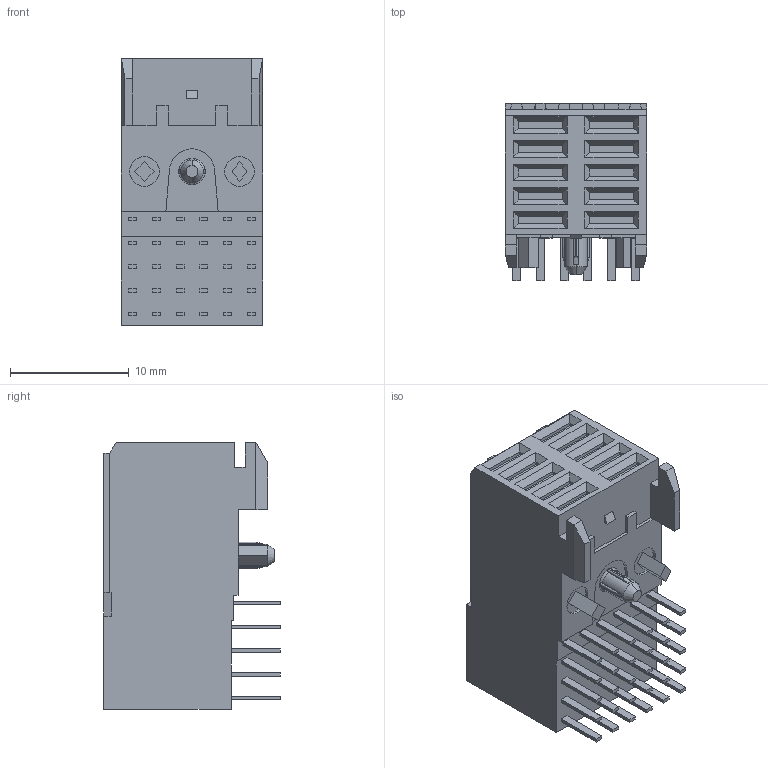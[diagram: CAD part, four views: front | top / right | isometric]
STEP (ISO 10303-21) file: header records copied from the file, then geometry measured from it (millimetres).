
FILE_DESCRIPTION((''),'2;1');
FILE_NAME('C-5536649-1','2019-03-08T06:57:03',('workeradm'),('TE Connectivity Ltd.'),'CREO PARAMETRIC BY PTC INC, 2018190','CREO PARAMETRIC BY PTC INC, 2018190','');
FILE_SCHEMA(('AUTOMOTIVE_DESIGN { 1 0 10303 214 1 1 1 1 }'));
Length unit declared in the file: millimetre
Products named in the file (1): C-5536649-1
Bounding box: 11.88 x 14.86 x 22.45 mm (x, y, z)
Volume: 2885.5 mm3; surface area: 1725 mm2
Topology: 1 solids, 1 shells, 382 faces, 940 edges, 606 vertices
Faces by surface type: plane 353, cylinder 19, cone 6, torus 4
Entity records: 11168 total; most frequent: CARTESIAN_POINT 2126, ORIENTED_EDGE 1880, DIRECTION 1716, EDGE_CURVE 940, VECTOR 864, LINE 864, VERTEX_POINT 606, EDGE_LOOP 428
